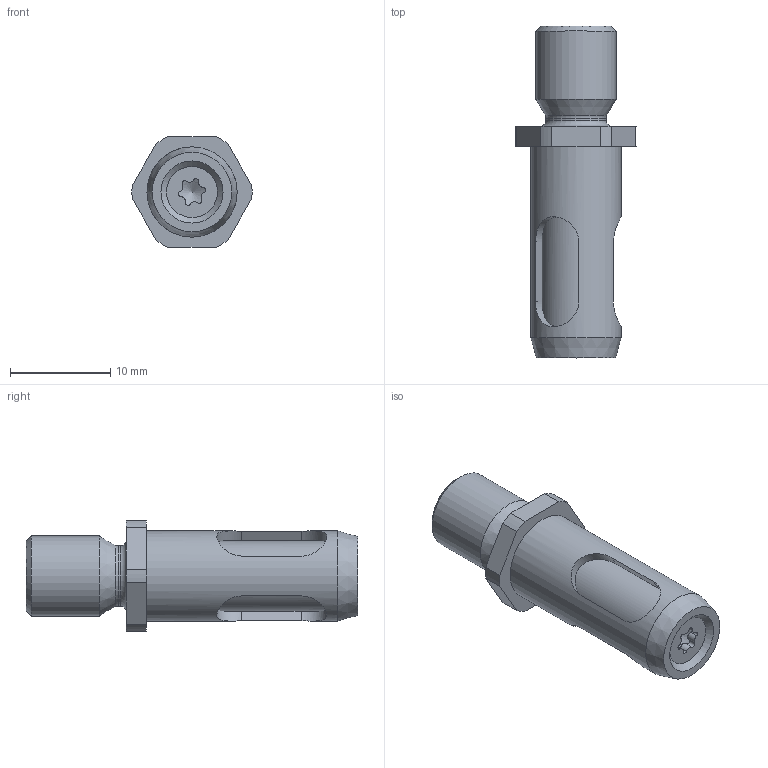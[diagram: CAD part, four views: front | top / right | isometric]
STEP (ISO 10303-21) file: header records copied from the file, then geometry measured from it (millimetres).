
FILE_DESCRIPTION(/* description */ (''),/* implementation_level */ '2;1');
FILE_NAME(/* name */ '\\dc01\daten\CAD\Standard\Daten\3D-Datenbank\GI\GIS\4 - 3D-CAD-Daten GIS 004-020\G-GIS009\G-GIS009_Rev.1.02.stp',/* time_stamp */ '2022-11-29T15:55:07+01:00',/* author */ ('ysplieth'),/* organization */ (''),/* preprocessor_version */ 'ST-DEVELOPER v17',/* originating_system */ 'Autodesk Inventor 2018',/* authorisation */ '');
FILE_SCHEMA (('AUTOMOTIVE_DESIGN { 1 0 10303 214 3 1 1 }'));
Length unit declared in the file: millimetre
Products named in the file (1): Bauteil13
Bounding box: 11.99 x 33.15 x 11 mm (x, y, z)
Volume: 1525.8 mm3; surface area: 2183.1 mm2
Topology: 1 solids, 4 shells, 82 faces, 229 edges, 158 vertices
Faces by surface type: cylinder 42, plane 23, cone 13, torus 4
Full cylindrical faces by diameter (mm): 2.459 x3, 2.8 x2, 3 x1, 3.2 x1, 4.134 x1, 4.8 x1, 5 x1, 6 x1, 6.9 x1, 7 x1, 8 x1, 9 x1
Entity records: 3275 total; most frequent: CARTESIAN_POINT 1000, DIRECTION 453, ORIENTED_EDGE 452, EDGE_CURVE 226, AXIS2_PLACEMENT_3D 181, VERTEX_POINT 158, CIRCLE 98, EDGE_LOOP 96
